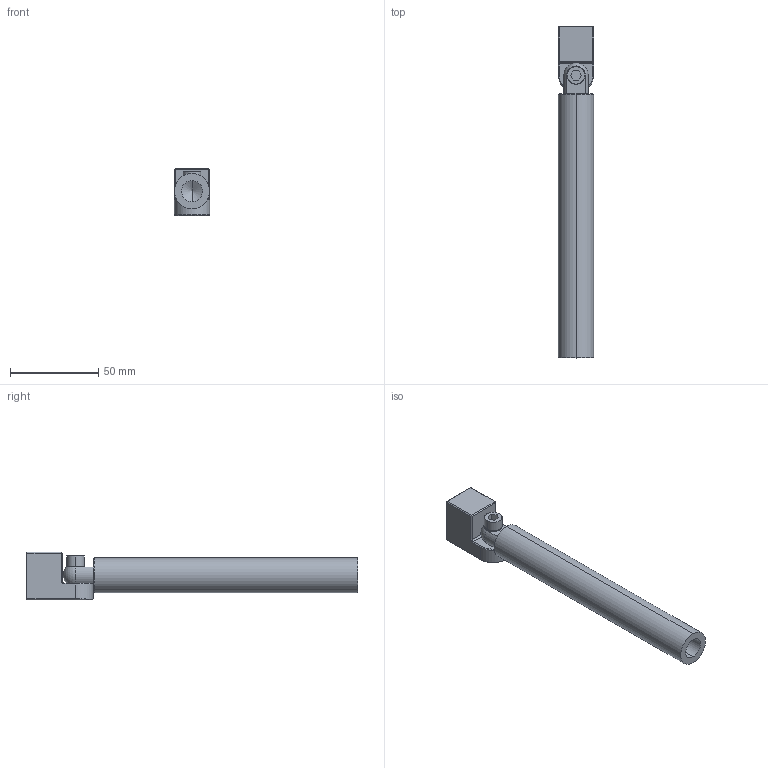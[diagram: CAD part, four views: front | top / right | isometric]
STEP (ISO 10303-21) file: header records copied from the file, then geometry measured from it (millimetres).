
FILE_DESCRIPTION (( 'STEP AP214' ), '1' );
FILE_NAME ('SEAV-G1420L150T.STEP', '2023-02-02T08:04:38', ( 'Windows User' ), ( 'P R C' ), 'SwSTEP 2.0', 'SolidWorks 2019', '' );
FILE_SCHEMA (( 'AUTOMOTIVE_DESIGN' ));
Length unit declared in the file: millimetre
Products named in the file (5): SEAV-G1420L150.1; SEAV-G1420L150T; SEAV-G1420L150.2; PTS-M6; PTC-M6L14
Assembly tree (4 placements, depth 2):
  SEAV-G1420L150T
    PTC-M6L14
    PTS-M6
    SEAV-G1420L150.1
    SEAV-G1420L150.2
Bounding box: 20 x 188.3 x 27 mm (x, y, z)
Volume: 43776.2 mm3; surface area: 21659.4 mm2
Topology: 4 solids, 4 shells, 247 faces, 680 edges, 438 vertices
Faces by surface type: plane 198, cylinder 28, cone 20, sphere 1
Entity records: 8245 total; most frequent: DIRECTION 1403, CARTESIAN_POINT 1381, ORIENTED_EDGE 1346, EDGE_CURVE 673, AXIS2_PLACEMENT_3D 482, VECTOR 439, LINE 439, VERTEX_POINT 436
